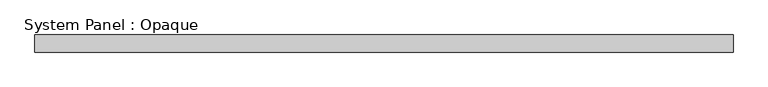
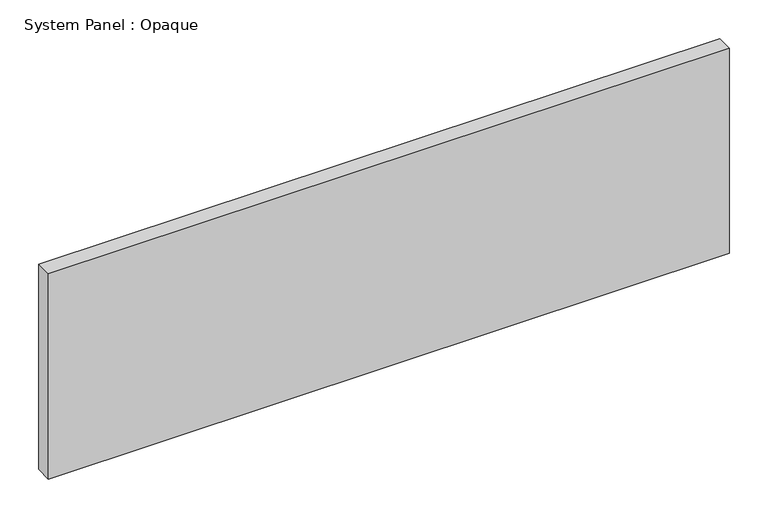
"""IFC4 building model written with IfcOpenShell, lengths in millimetres: plate geometry, System Panel : Opaque."""

import ifcopenshell
import ifcopenshell.guid

model = None  # the IFC model being written
_history = None  # IfcOwnerHistory: only IFC2X3 demands one
_inside = {}  # id of a spatial element -> (the spatial element, [elements in it])
_under = {}  # id of a project, library or spatial element -> (it, [spatial elements below it])
_declared = {}  # id of a project -> (the project, [libraries it declares])
_typed = {}  # id of a type object -> (the type object, [elements of that type])
_made_of = {}  # id of a material, layer set ... -> (it, [elements and type objects made of it])


def new_model(schema):
    """Start an empty IFC model of exactly this schema.

    Asked for "IFC4X3", IfcOpenShell would pick the latest addendum, in which some entities
    have other attributes; the version numbers below select the first issue.
    IFC2X3 requires an IfcOwnerHistory on every rooted entity: one is made here for all.
    """
    global model, _history
    if schema == "IFC4X3":
        model = ifcopenshell.file(schema_version=(4, 3, 0, 0))
    else:
        model = ifcopenshell.file(schema=schema)
    _inside.clear()
    _under.clear()
    _declared.clear()
    _typed.clear()
    _made_of.clear()
    _history = None
    if model.schema == "IFC2X3":
        org = make("IfcOrganization", Name="unknown")
        user = make(
            "IfcPersonAndOrganization",
            ThePerson=make("IfcPerson", FamilyName="unknown"),
            TheOrganization=org,
        )
        app = make(
            "IfcApplication",
            ApplicationDeveloper=org,
            Version="unknown",
            ApplicationFullName="unknown",
            ApplicationIdentifier="unknown",
        )
        _history = make(
            "IfcOwnerHistory",
            OwningUser=user,
            OwningApplication=app,
            ChangeAction="ADDED",
            CreationDate=0,
        )
    return model


def make(cls, **values):
    """One entity of the class cls with the attributes given. An attribute that is None is left unset."""
    return model.create_entity(
        cls, **{name: value for name, value in values.items() if value is not None}
    )


def rooted(cls, **values):
    """An entity with a GlobalId (a new one), such as an element, a storey or a relation."""
    return make(cls, GlobalId=ifcopenshell.guid.new(), OwnerHistory=_history, **values)


def si_unit(unit_type, name, prefix=None):
    """IfcSIUnit, for example si_unit("LENGTHUNIT", "METRE", prefix="MILLI")."""
    return make("IfcSIUnit", UnitType=unit_type, Prefix=prefix, Name=name)


def assignment(units):
    """IfcUnitAssignment: the units of a project."""
    return None if units is None else make("IfcUnitAssignment", Units=units)


def point(xyz):
    """IfcCartesianPoint."""
    return None if xyz is None else make("IfcCartesianPoint", Coordinates=xyz)


def direction(xyz):
    """IfcDirection."""
    return None if xyz is None else make("IfcDirection", DirectionRatios=xyz)


def frame(location, z_axis=None, x_axis=None):
    """IfcAxis2Placement3D, a coordinate frame: its origin and axes. An axis left out is left unset."""
    return make(
        "IfcAxis2Placement3D",
        Location=point(location),
        Axis=direction(z_axis),
        RefDirection=direction(x_axis),
    )


def origin():
    """The frame at (0, 0, 0) with its axes left unset."""
    return frame((0.0, 0.0, 0.0))


def origin_with_axes():
    """The frame at (0, 0, 0) with the z axis (0, 0, 1) and the x axis (1, 0, 0) written out."""
    return frame((0.0, 0.0, 0.0), z_axis=(0.0, 0.0, 1.0), x_axis=(1.0, 0.0, 0.0))


def place(relative_to, where):
    """IfcLocalPlacement: puts the frame where relative to a parent placement (None: the world)."""
    return make(
        "IfcLocalPlacement", PlacementRelTo=relative_to, RelativePlacement=where
    )


def context(
    kind, dimensions, precision=None, world=None, true_north=None, identifier=None
):
    """IfcGeometricRepresentationContext, for example the 3D "Model" context."""
    return make(
        "IfcGeometricRepresentationContext",
        ContextIdentifier=identifier,
        ContextType=kind,
        CoordinateSpaceDimension=dimensions,
        Precision=precision,
        WorldCoordinateSystem=world,
        TrueNorth=true_north,
    )


def project(units=None, contexts=None):
    """IfcProject with its units and contexts."""
    return rooted(
        "IfcProject",
        Name="project",
        RepresentationContexts=contexts,
        UnitsInContext=assignment(units),
    )


def spatial(cls, under=None, at=None, **own):
    """A site, building, storey or space (cls), placed at a placement, below another one or the project."""
    s = rooted(cls, ObjectPlacement=at, **own)
    if under is not None:
        _under.setdefault(under.id(), (under, []))[1].append(s)
    return s


def polyline(points):
    """IfcPolyline through the points."""
    return make("IfcPolyline", Points=[point(p) for p in points])


def outline(outer, holes=None, kind="AREA"):
    """IfcArbitraryClosedProfileDef: a profile drawn as a closed curve; with holes, ...WithVoids."""
    if holes is None:
        return make("IfcArbitraryClosedProfileDef", ProfileType=kind, OuterCurve=outer)
    return make(
        "IfcArbitraryProfileDefWithVoids",
        ProfileType=kind,
        OuterCurve=outer,
        InnerCurves=holes,
    )


def extrude(swept, where, along, depth):
    """IfcExtrudedAreaSolid: the profile swept, set in the frame where, extruded along a direction by depth."""
    return make(
        "IfcExtrudedAreaSolid",
        SweptArea=swept,
        Position=where,
        ExtrudedDirection=direction(along),
        Depth=depth,
    )


def shape(context_of_items, identifier, shape_type, items):
    """IfcShapeRepresentation: the items that make up one representation, for example the "Body"."""
    return make(
        "IfcShapeRepresentation",
        ContextOfItems=context_of_items,
        RepresentationIdentifier=identifier,
        RepresentationType=shape_type,
        Items=items,
    )


def source(mapping_origin, context_of_items, identifier, shape_type, items):
    """IfcRepresentationMap: a shape defined once, which mapped items show again and again."""
    return make(
        "IfcRepresentationMap",
        MappingOrigin=mapping_origin,
        MappedRepresentation=shape(context_of_items, identifier, shape_type, items),
    )


def transform(
    local_origin,
    x_axis=None,
    y_axis=None,
    z_axis=None,
    scale=None,
    scale2=None,
    scale3=None,
    uniform=True,
):
    """IfcCartesianTransformationOperator3D, or its non-uniform kind. x_axis, y_axis, z_axis: its Axis1, 2, 3."""
    if uniform:
        return make(
            "IfcCartesianTransformationOperator3D",
            Axis1=direction(x_axis),
            Axis2=direction(y_axis),
            LocalOrigin=point(local_origin),
            Scale=scale,
            Axis3=direction(z_axis),
        )
    return make(
        "IfcCartesianTransformationOperator3DnonUniform",
        Axis1=direction(x_axis),
        Axis2=direction(y_axis),
        LocalOrigin=point(local_origin),
        Scale=scale,
        Axis3=direction(z_axis),
        Scale2=scale2,
        Scale3=scale3,
    )


def mapped(mapping_source, mapping_target):
    """IfcMappedItem: shows the shape of a source again, moved by a transform."""
    return make(
        "IfcMappedItem", MappingSource=mapping_source, MappingTarget=mapping_target
    )


def made_of(thing, what):
    """Note that an element or type object is made of a material, layer set ...; save() writes the relation."""
    if what is not None:
        _made_of.setdefault(what.id(), (what, []))[1].append(thing)
    return thing


def element(
    cls,
    number,
    at=None,
    inside=None,
    cuts=None,
    type_object=None,
    material=None,
    context=None,
    identifier="Body",
    shape_type=None,
    held_by="IfcProductDefinitionShape",
    body=None,
    shapes=None,
    **own,
):
    """One element of the class cls, such as IfcWall. Its Tag is "e" and its number.

    at: its placement. inside: the storey or other place that contains it. cuts: it is an
    opening in that element (IfcRelVoidsElement). A single representation is given by context,
    identifier, shape_type and body (its items); several are given by shapes. held_by: the class
    of the entity that holds the representations. save() writes the other relations.
    """
    e = rooted(cls, Tag="e%d" % number, ObjectPlacement=at, **own)
    if body is not None:
        shapes = [shape(context, identifier, shape_type, body)]
    if shapes is not None:
        e.Representation = make(held_by, Representations=shapes)
    if inside is not None:
        _inside.setdefault(inside.id(), (inside, []))[1].append(e)
    if cuts is not None:
        rooted(
            "IfcRelVoidsElement", RelatingBuildingElement=cuts, RelatedOpeningElement=e
        )
    if type_object is not None:
        _typed.setdefault(type_object.id(), (type_object, []))[1].append(e)
    return made_of(e, material)


def aggregate(whole, parts):
    """IfcRelAggregates: a whole, such as a stair, and the parts it consists of."""
    return rooted("IfcRelAggregates", RelatingObject=whole, RelatedObjects=parts)


def save(model, path):
    """Write the relations noted so far, then the file.

    IfcRelAggregates (storeys below a building ...), IfcRelContainedInSpatialStructure (elements
    in a storey), IfcRelDefinesByType, IfcRelAssociatesMaterial and IfcRelDeclares: one each for
    every whole, place, type object, material and project.
    """
    for whole, parts in _under.values():
        aggregate(whole, parts)
    for where, things in _inside.values():
        rooted(
            "IfcRelContainedInSpatialStructure",
            RelatedElements=things,
            RelatingStructure=where,
        )
    for kind, things in _typed.values():
        rooted("IfcRelDefinesByType", RelatedObjects=things, RelatingType=kind)
    for what, things in _made_of.values():
        rooted("IfcRelAssociatesMaterial", RelatedObjects=things, RelatingMaterial=what)
    for by, libraries in _declared.values():
        rooted("IfcRelDeclares", RelatingContext=by, RelatedDefinitions=libraries)
    model.write(path)


def system_panel_opaque_52cc8dd5(model_context):
    return source(origin(), model_context, "Body", "SweptSolid", [
        extrude(outline(polyline([(510.0268158, -12.5), (-510.0268158, -12.5), (-510.0268158, 12.5), (510.0268158, 12.5), (510.0268158, -12.5)])), origin_with_axes(), (0.0, 0.0, 1.0), 325.0),
    ])


if __name__ == "__main__":
    model = new_model("IFC4")
    model_context = context("Model", 3, world=origin())
    ifc_project = project(units=[si_unit("LENGTHUNIT", "METRE", prefix="MILLI")], contexts=[model_context])
    site = spatial("IfcSite", under=ifc_project)
    building = spatial("IfcBuilding", under=site)
    placement = place(None, origin())
    system_panel_opaque_shape = system_panel_opaque_52cc8dd5(model_context)
    element("IfcPlate", 1, ObjectType="System Panel : Opaque", at=placement, inside=building, context=model_context, shape_type="MappedRepresentation", body=[
        mapped(system_panel_opaque_shape, transform((0.0, 0.0, 0.0), x_axis=(1.0, 0.0, 0.0), y_axis=(0.0, 1.0, 0.0), z_axis=(0.0, 0.0, 1.0))),
    ])
    save(model, "model.ifc")
